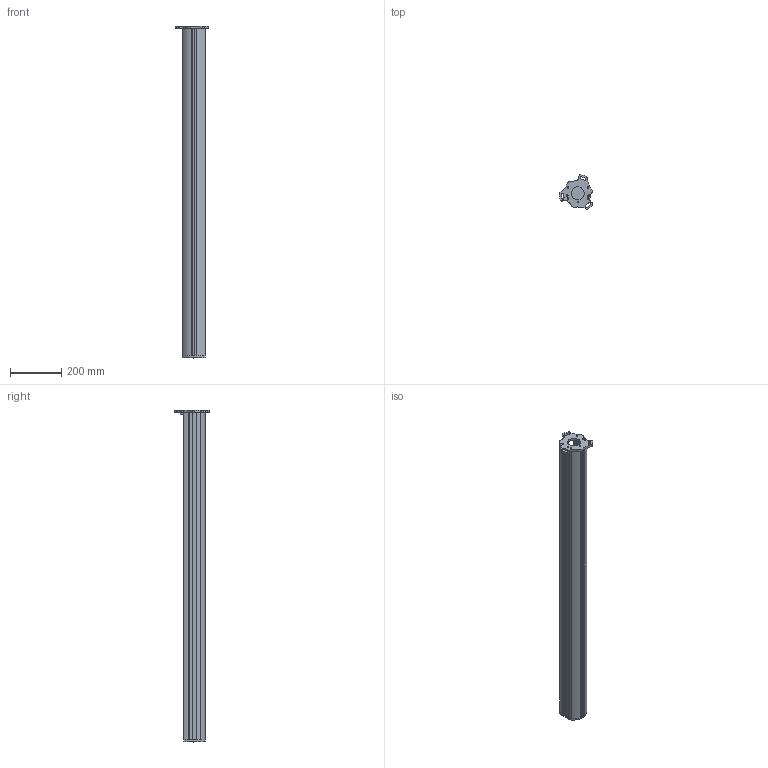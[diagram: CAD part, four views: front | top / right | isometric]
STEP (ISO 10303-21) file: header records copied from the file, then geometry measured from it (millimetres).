
FILE_DESCRIPTION((''),'2;1');
FILE_NAME('M:\INVENTORjob\Konstruktion\Ó\dulen\Baugruppe\Bauraummodelle\stp\549622_DC-1300-S2.stp','2012-07-11T10:11:52',('seisen'),(''),'Autodesk Inventor 2009','Autodesk Inventor 2009','');
FILE_SCHEMA(('AUTOMOTIVE_DESIGN { 1 0 10303 214 1 1 1 1 }'));
Length unit declared in the file: millimetre
Products named in the file (6): 549622_DC-1300-S2; 549622_DC-1300-S21; 549622_DC-1300-S22; 549622_DC-1300-S23; 549622_DC-1300-S24; 549622_DC-1300-S25
Assembly tree (5 placements, depth 2):
  549622_DC-1300-S2
    549622_DC-1300-S21
    549622_DC-1300-S22
    549622_DC-1300-S23
    549622_DC-1300-S24
    549622_DC-1300-S25
Bounding box: 131.3 x 134.69 x 1296.92 mm (x, y, z)
Volume: 1495959.7 mm3; surface area: 936334.4 mm2
Topology: 5 solids, 6 shells, 252 faces, 715 edges, 477 vertices
Faces by surface type: plane 102, bspline 78, cylinder 69, cone 2, revolution 1
Full cylindrical faces by diameter (mm): 5.4 x1, 5.6 x2, 6 x1, 6.43 x7, 12.2 x1, 15 x1, 15.2 x1, 49.93 x1
Entity records: 8766 total; most frequent: CARTESIAN_POINT 2230, ORIENTED_EDGE 1390, DIRECTION 1213, EDGE_CURVE 695, VERTEX_POINT 477, VECTOR 432, LINE 432, AXIS2_PLACEMENT_3D 390
